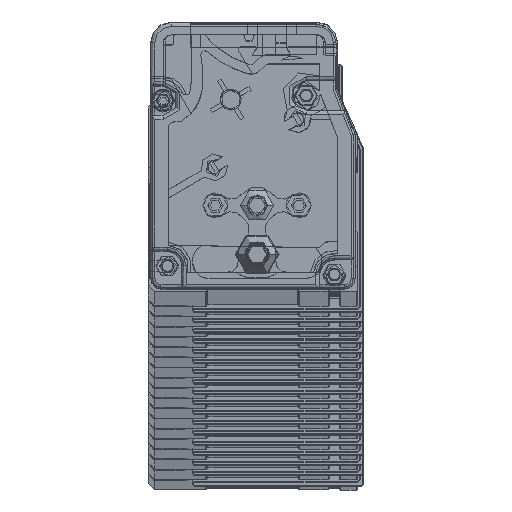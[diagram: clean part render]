
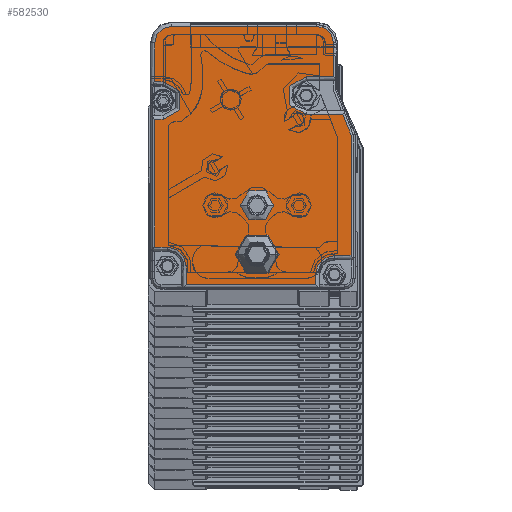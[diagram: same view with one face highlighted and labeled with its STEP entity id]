
A CAD part, top view. The second image highlights one B-rep face of the part: STEP entity #582530.
In plain terms, the highlighted planar face has unit normal (0, 0, 1).
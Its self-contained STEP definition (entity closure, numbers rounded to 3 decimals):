
#501290=CARTESIAN_POINT('',(-20.559,51.727,
2958.89));
#501300=DIRECTION('',(1.,0.,0.));
#501310=VECTOR('',#501300,1.);
#501320=LINE('',#501290,#501310);
#501330=CARTESIAN_POINT('',(-68.559,51.727,
2958.89));
#501340=VERTEX_POINT('',#501330);
#501350=CARTESIAN_POINT('',(-66.559,51.727,
2958.89));
#501360=VERTEX_POINT('',#501350);
#501370=EDGE_CURVE('',#501340,#501360,#501320,.T.);
#501870=CARTESIAN_POINT('',(-20.559,3.124,
2958.89));
#501880=DIRECTION('',(-1.,0.,0.));
#501890=VECTOR('',#501880,1.);
#501900=LINE('',#501870,#501890);
#501910=CARTESIAN_POINT('',(-30.059,3.124,
2958.89));
#501920=VERTEX_POINT('',#501910);
#501930=CARTESIAN_POINT('',(-61.059,3.124,
2958.89));
#501940=VERTEX_POINT('',#501930);
#501950=EDGE_CURVE('',#501920,#501940,#501900,.T.);
#503860=CARTESIAN_POINT('',(-65.559,7.624,
2958.89));
#503870=DIRECTION('',(0.,0.,-1.));
#503880=DIRECTION('',(-1.,0.,0.));
#503890=AXIS2_PLACEMENT_3D('',#503860,#503870,#503880);
#503900=CIRCLE('',#503890,4.5);
#503910=CARTESIAN_POINT('',(-65.559,12.124,
2958.89));
#503920=VERTEX_POINT('',#503910);
#503930=CARTESIAN_POINT('',(-61.059,7.624,
2958.89));
#503940=VERTEX_POINT('',#503930);
#503950=EDGE_CURVE('',#503920,#503940,#503900,.T.);
#543360=CARTESIAN_POINT('',(-32.309,48.424,
2958.89));
#543370=DIRECTION('',(0.,0.,-1.));
#543380=DIRECTION('',(-1.,0.,0.));
#543390=AXIS2_PLACEMENT_3D('',#543360,#543370,#543380);
#543400=CIRCLE('',#543390,4.5);
#543410=CARTESIAN_POINT('',(-32.309,43.924,
2958.89));
#543420=VERTEX_POINT('',#543410);
#543430=CARTESIAN_POINT('',(-32.309,52.924,
2958.89));
#543440=VERTEX_POINT('',#543430);
#543450=EDGE_CURVE('',#543420,#543440,#543400,.T.);
#580530=CARTESIAN_POINT('',(-7.243,2.124,
2958.89));
#580540=DIRECTION('',(0.362,-0.932,0.));
#580550=VECTOR('',#580540,1.);
#580560=LINE('',#580530,#580550);
#580570=CARTESIAN_POINT('',(-23.499,43.924,
2958.89));
#580580=VERTEX_POINT('',#580570);
#580590=CARTESIAN_POINT('',(-21.559,38.937,
2958.89));
#580600=VERTEX_POINT('',#580590);
#580610=EDGE_CURVE('',#580580,#580600,#580560,.T.);
#580890=CARTESIAN_POINT('',(-20.265,1.758,
2958.89));
#580900=DIRECTION('',(0.,0.,-1.));
#580910=DIRECTION('',(-1.,0.,0.));
#580920=AXIS2_PLACEMENT_3D('',#580890,#580900,#580910);
#580930=PLANE('',#580920);
#580940=CARTESIAN_POINT('',(-44.056,10.421,
2958.89));
#580950=DIRECTION('',(0.,0.,-1.));
#580960=DIRECTION('',(-1.,0.,0.));
#580970=AXIS2_PLACEMENT_3D('',#580940,#580950,#580960);
#580980=CIRCLE('',#580970,5.);
#580990=CARTESIAN_POINT('',(-39.056,10.421,
2958.89));
#581000=VERTEX_POINT('',#580990);
#581010=CARTESIAN_POINT('',(-49.056,10.421,
2958.89));
#581020=VERTEX_POINT('',#581010);
#581030=EDGE_CURVE('',#581000,#581020,#580980,.T.);
#581040=ORIENTED_EDGE('',*,*,#581030,.T.);
#581050=EDGE_CURVE('',#581020,#581000,#580980,.T.);
#581060=ORIENTED_EDGE('',*,*,#581050,.T.);
#581070=EDGE_LOOP('',(#581060,#581040));
#581080=FACE_BOUND('',#581070,.T.);
#581090=CARTESIAN_POINT('',(-44.059,22.124,
2958.89));
#581100=DIRECTION('',(0.,0.,1.));
#581110=DIRECTION('',(-1.,0.,0.));
#581120=AXIS2_PLACEMENT_3D('',#581090,#581100,#581110);
#581130=CIRCLE('',#581120,4.);
#581140=CARTESIAN_POINT('',(-40.059,22.124,
2958.89));
#581150=VERTEX_POINT('',#581140);
#581160=CARTESIAN_POINT('',(-48.059,22.124,
2958.89));
#581170=VERTEX_POINT('',#581160);
#581180=EDGE_CURVE('',#581150,#581170,#581130,.T.);
#581190=ORIENTED_EDGE('',*,*,#581180,.F.);
#581200=EDGE_CURVE('',#581170,#581150,#581130,.T.);
#581210=ORIENTED_EDGE('',*,*,#581200,.F.);
#581220=EDGE_LOOP('',(#581210,#581190));
#581230=FACE_BOUND('',#581220,.T.);
#581240=CARTESIAN_POINT('',(-61.059,2.124,
2958.89));
#581250=DIRECTION('',(0.,-1.,0.));
#581260=VECTOR('',#581250,1.);
#581270=LINE('',#581240,#581260);
#581280=EDGE_CURVE('',#503940,#501940,#581270,.T.);
#581290=ORIENTED_EDGE('',*,*,#581280,.T.);
#581300=ORIENTED_EDGE('',*,*,#503950,.T.);
#581310=CARTESIAN_POINT('',(-20.559,12.124,
2958.89));
#581320=DIRECTION('',(1.,0.,0.));
#581330=VECTOR('',#581320,1.);
#581340=LINE('',#581310,#581330);
#581350=CARTESIAN_POINT('',(-68.559,12.124,
2958.89));
#581360=VERTEX_POINT('',#581350);
#581370=EDGE_CURVE('',#581360,#503920,#581340,.T.);
#581380=ORIENTED_EDGE('',*,*,#581370,.T.);
#581390=CARTESIAN_POINT('',(-68.559,2.124,
2958.89));
#581400=DIRECTION('',(0.,-1.,0.));
#581410=VECTOR('',#581400,1.);
#581420=LINE('',#581390,#581410);
#581430=CARTESIAN_POINT('',(-68.559,42.727,
2958.89));
#581440=VERTEX_POINT('',#581430);
#581450=EDGE_CURVE('',#581440,#581360,#581420,.T.);
#581460=ORIENTED_EDGE('',*,*,#581450,.T.);
#581470=CARTESIAN_POINT('',(-20.559,42.727,
2958.89));
#581480=DIRECTION('',(-1.,0.,0.));
#581490=VECTOR('',#581480,1.);
#581500=LINE('',#581470,#581490);
#581510=CARTESIAN_POINT('',(-66.559,42.727,
2958.89));
#581520=VERTEX_POINT('',#581510);
#581530=EDGE_CURVE('',#581520,#581440,#581500,.T.);
#581540=ORIENTED_EDGE('',*,*,#581530,.T.);
#581550=CARTESIAN_POINT('',(-66.559,47.227,
2958.89));
#581560=DIRECTION('',(0.,0.,-1.));
#581570=DIRECTION('',(-1.,0.,0.));
#581580=AXIS2_PLACEMENT_3D('',#581550,#581560,#581570);
#581590=CIRCLE('',#581580,4.5);
#581600=EDGE_CURVE('',#501360,#581520,#581590,.T.);
#581610=ORIENTED_EDGE('',*,*,#581600,.T.);
#581620=ORIENTED_EDGE('',*,*,#501370,.T.);
#581630=CARTESIAN_POINT('',(-68.559,2.124,
2958.89));
#581640=DIRECTION('',(0.,-1.,0.));
#581650=VECTOR('',#581640,1.);
#581660=LINE('',#581630,#581650);
#581670=CARTESIAN_POINT('',(-68.559,61.024,
2958.89));
#581680=VERTEX_POINT('',#581670);
#581690=EDGE_CURVE('',#581680,#501340,#581660,.T.);
#581700=ORIENTED_EDGE('',*,*,#581690,.T.);
#581710=CARTESIAN_POINT('',(-64.559,61.024,
2958.89));
#581720=DIRECTION('',(0.,0.,1.));
#581730=DIRECTION('',(1.,0.,0.));
#581740=AXIS2_PLACEMENT_3D('',#581710,#581720,#581730);
#581750=CIRCLE('',#581740,4.);
#581760=CARTESIAN_POINT('',(-64.559,65.024,
2958.89));
#581770=VERTEX_POINT('',#581760);
#581780=EDGE_CURVE('',#581770,#581680,#581750,.T.);
#581790=ORIENTED_EDGE('',*,*,#581780,.T.);
#581800=CARTESIAN_POINT('',(-20.559,65.024,
2958.89));
#581810=DIRECTION('',(-1.,0.,0.));
#581820=VECTOR('',#581810,1.);
#581830=LINE('',#581800,#581820);
#581840=CARTESIAN_POINT('',(-29.759,65.024,
2958.89));
#581850=VERTEX_POINT('',#581840);
#581860=EDGE_CURVE('',#581850,#581770,#581830,.T.);
#581870=ORIENTED_EDGE('',*,*,#581860,.T.);
#581880=CARTESIAN_POINT('',(-29.759,61.024,
2958.89));
#581890=DIRECTION('',(0.,0.,1.));
#581900=DIRECTION('',(1.,0.,0.));
#581910=AXIS2_PLACEMENT_3D('',#581880,#581890,#581900);
#581920=CIRCLE('',#581910,4.);
#581930=CARTESIAN_POINT('',(-25.759,61.024,
2958.89));
#581940=VERTEX_POINT('',#581930);
#581950=EDGE_CURVE('',#581940,#581850,#581920,.T.);
#581960=ORIENTED_EDGE('',*,*,#581950,.T.);
#581970=CARTESIAN_POINT('',(-25.759,2.124,
2958.89));
#581980=DIRECTION('',(0.,1.,0.));
#581990=VECTOR('',#581980,1.);
#582000=LINE('',#581970,#581990);
#582010=CARTESIAN_POINT('',(-25.759,52.924,
2958.89));
#582020=VERTEX_POINT('',#582010);
#582030=EDGE_CURVE('',#582020,#581940,#582000,.T.);
#582040=ORIENTED_EDGE('',*,*,#582030,.T.);
#582050=CARTESIAN_POINT('',(-20.559,52.924,
2958.89));
#582060=DIRECTION('',(-1.,0.,0.));
#582070=VECTOR('',#582060,1.);
#582080=LINE('',#582050,#582070);
#582090=EDGE_CURVE('',#582020,#543440,#582080,.T.);
#582100=ORIENTED_EDGE('',*,*,#582090,.F.);
#582110=ORIENTED_EDGE('',*,*,#543450,.T.);
#582120=CARTESIAN_POINT('',(-20.559,43.924,
2958.89));
#582130=DIRECTION('',(-1.,0.,0.));
#582140=VECTOR('',#582130,1.);
#582150=LINE('',#582120,#582140);
#582160=EDGE_CURVE('',#580580,#543420,#582150,.T.);
#582170=ORIENTED_EDGE('',*,*,#582160,.T.);
#582180=ORIENTED_EDGE('',*,*,#580610,.F.);
#582190=CARTESIAN_POINT('',(-21.559,2.124,
2958.89));
#582200=DIRECTION('',(0.,-1.,0.));
#582210=VECTOR('',#582200,1.);
#582220=LINE('',#582190,#582210);
#582230=CARTESIAN_POINT('',(-21.559,10.124,
2958.89));
#582240=VERTEX_POINT('',#582230);
#582250=EDGE_CURVE('',#580600,#582240,#582220,.T.);
#582260=ORIENTED_EDGE('',*,*,#582250,.F.);
#582270=CARTESIAN_POINT('',(-20.559,10.124,
2958.89));
#582280=DIRECTION('',(1.,0.,0.));
#582290=VECTOR('',#582280,1.);
#582300=LINE('',#582270,#582290);
#582310=CARTESIAN_POINT('',(-25.559,10.124,
2958.89));
#582320=VERTEX_POINT('',#582310);
#582330=EDGE_CURVE('',#582320,#582240,#582300,.T.);
#582340=ORIENTED_EDGE('',*,*,#582330,.T.);
#582350=CARTESIAN_POINT('',(-25.559,5.624,
2958.89));
#582360=DIRECTION('',(0.,0.,-1.));
#582370=DIRECTION('',(-1.,0.,0.));
#582380=AXIS2_PLACEMENT_3D('',#582350,#582360,#582370);
#582390=CIRCLE('',#582380,4.5);
#582400=CARTESIAN_POINT('',(-30.059,5.624,
2958.89));
#582410=VERTEX_POINT('',#582400);
#582420=EDGE_CURVE('',#582410,#582320,#582390,.T.);
#582430=ORIENTED_EDGE('',*,*,#582420,.T.);
#582440=CARTESIAN_POINT('',(-30.059,2.124,
2958.89));
#582450=DIRECTION('',(0.,1.,0.));
#582460=VECTOR('',#582450,1.);
#582470=LINE('',#582440,#582460);
#582480=EDGE_CURVE('',#501920,#582410,#582470,.T.);
#582490=ORIENTED_EDGE('',*,*,#582480,.T.);
#582500=ORIENTED_EDGE('',*,*,#501950,.F.);
#582510=EDGE_LOOP('',(#582500,#582490,#582430,#582340,#582260,#582180,
#582170,#582110,#582100,#582040,#581960,#581870,#581790,#581700,#581620,
#581610,#581540,#581460,#581380,#581300,#581290));
#582520=FACE_OUTER_BOUND('',#582510,.T.);
#582530=ADVANCED_FACE('',(#581080,#581230,#582520),#580930,.F.);
